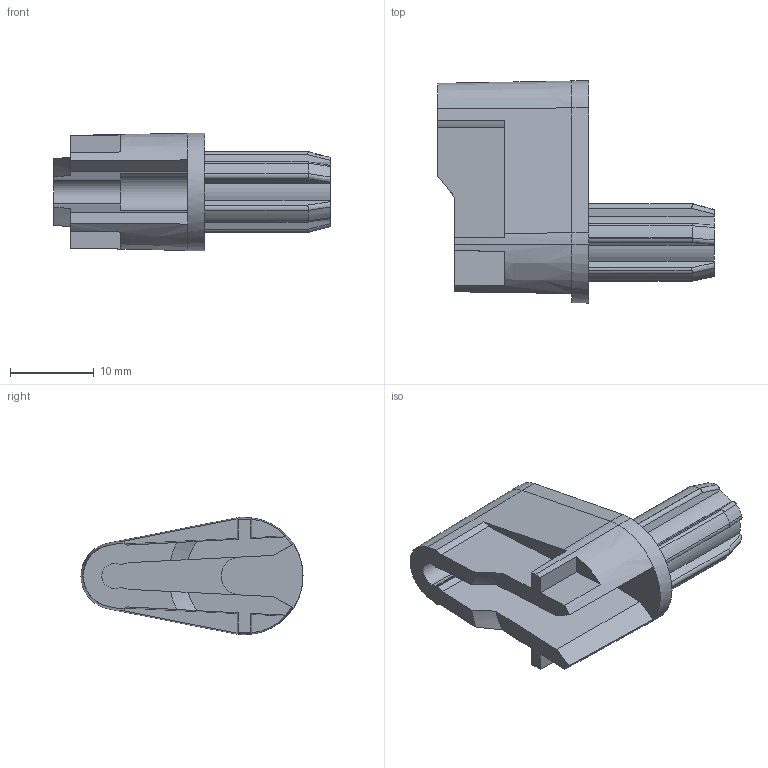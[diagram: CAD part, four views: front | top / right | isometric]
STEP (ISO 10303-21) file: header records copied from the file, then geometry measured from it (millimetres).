
FILE_DESCRIPTION (( 'STEP AP214' ), '1' );
FILE_NAME ('Syncronisationshebel.STEP', '2009-11-24T08:52:15', ( 'Grass' ), ( 'Grass GmbH' ), 'SwSTEP 2.0', 'SolidWorks 2009', '' );
FILE_SCHEMA (( 'AUTOMOTIVE_DESIGN' ));
Length unit declared in the file: millimetre
Products named in the file (1): Syncronisationshebel
Bounding box: 33 x 26.5 x 14 mm (x, y, z)
Volume: 3968.4 mm3; surface area: 2573.9 mm2
Topology: 1 solids, 1 shells, 95 faces, 269 edges, 177 vertices
Faces by surface type: plane 39, cylinder 33, cone 13, bspline 10
Entity records: 3532 total; most frequent: CARTESIAN_POINT 1120, ORIENTED_EDGE 538, DIRECTION 452, EDGE_CURVE 269, VERTEX_POINT 177, AXIS2_PLACEMENT_3D 165, LINE 122, VECTOR 122
